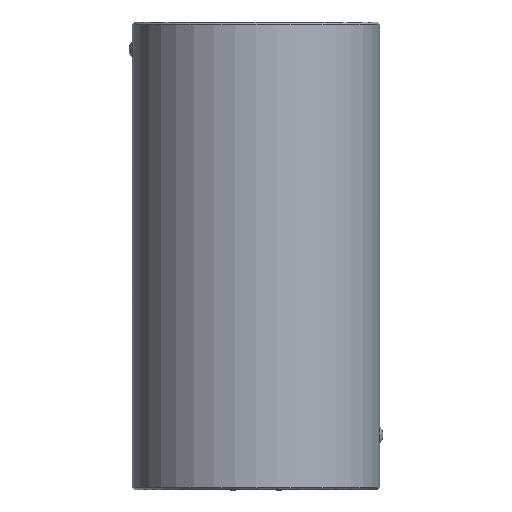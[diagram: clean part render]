
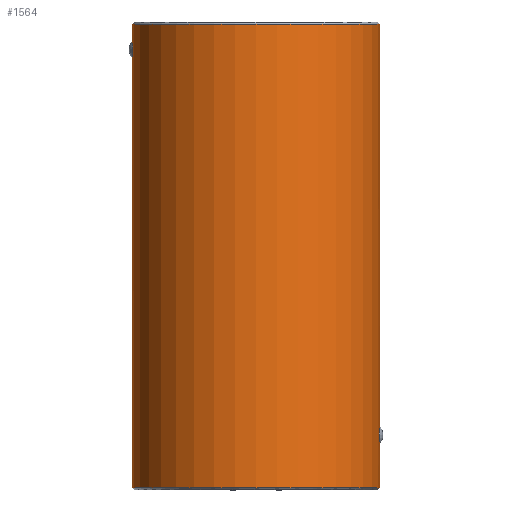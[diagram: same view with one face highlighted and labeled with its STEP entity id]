
A CAD part, front view. The second image highlights one B-rep face of the part: STEP entity #1564.
In plain terms, the highlighted cylindrical face has radius 18.5 mm (diameter 37 mm), a partial arc.
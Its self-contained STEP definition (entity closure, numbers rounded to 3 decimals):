
#1346=CARTESIAN_POINT('Vertex',(-18.5,0.,0.3)) ;
#1353=CARTESIAN_POINT('Vertex',(18.5,0.,0.3)) ;
#1356=CARTESIAN_POINT('Axis2P3D Location',(0.,0.,0.3)) ;
#1474=CARTESIAN_POINT('Axis2P3D Location',(0.,0.,70.)) ;
#1479=CARTESIAN_POINT('Line Origine',(18.5,0.,70.)) ;
#1483=CARTESIAN_POINT('Vertex',(18.5,0.,6.877)) ;
#1487=CARTESIAN_POINT('Control Point',(18.449,-1.379,8.201)) ;
#1488=CARTESIAN_POINT('Control Point',(18.449,-1.379,7.776)) ;
#1489=CARTESIAN_POINT('Control Point',(18.462,-1.201,7.352)) ;
#1490=CARTESIAN_POINT('Control Point',(18.488,-0.85,7.033)) ;
#1491=CARTESIAN_POINT('Control Point',(18.5,-0.425,6.877)) ;
#1492=CARTESIAN_POINT('Control Point',(18.5,0.,6.877)) ;
#1493=CARTESIAN_POINT('Vertex',(18.449,-1.379,8.201)) ;
#1497=CARTESIAN_POINT('Control Point',(18.5,0.,9.523)) ;
#1498=CARTESIAN_POINT('Control Point',(18.5,-0.425,9.523)) ;
#1499=CARTESIAN_POINT('Control Point',(18.488,-0.845,9.368)) ;
#1500=CARTESIAN_POINT('Control Point',(18.462,-1.201,9.052)) ;
#1501=CARTESIAN_POINT('Control Point',(18.449,-1.379,8.625)) ;
#1502=CARTESIAN_POINT('Control Point',(18.449,-1.379,8.201)) ;
#1503=CARTESIAN_POINT('Vertex',(18.5,0.,9.523)) ;
#1506=CARTESIAN_POINT('Line Origine',(18.5,0.,70.)) ;
#1510=CARTESIAN_POINT('Vertex',(18.5,0.,69.7)) ;
#1513=CARTESIAN_POINT('Axis2P3D Location',(0.,0.,69.7)) ;
#1517=CARTESIAN_POINT('Vertex',(-18.5,0.,69.7)) ;
#1520=CARTESIAN_POINT('Line Origine',(-18.5,0.,70.)) ;
#1524=CARTESIAN_POINT('Vertex',(-18.5,0.,67.223)) ;
#1528=CARTESIAN_POINT('Control Point',(-18.449,-1.379,65.899)) ;
#1529=CARTESIAN_POINT('Control Point',(-18.449,-1.379,66.324)) ;
#1530=CARTESIAN_POINT('Control Point',(-18.462,-1.201,66.748)) ;
#1531=CARTESIAN_POINT('Control Point',(-18.488,-0.85,67.067)) ;
#1532=CARTESIAN_POINT('Control Point',(-18.5,-0.425,67.223)) ;
#1533=CARTESIAN_POINT('Control Point',(-18.5,0.,67.223)) ;
#1534=CARTESIAN_POINT('Vertex',(-18.449,-1.379,65.899)) ;
#1538=CARTESIAN_POINT('Control Point',(-18.5,0.,64.577)) ;
#1539=CARTESIAN_POINT('Control Point',(-18.5,-0.425,64.577)) ;
#1540=CARTESIAN_POINT('Control Point',(-18.488,-0.845,64.732)) ;
#1541=CARTESIAN_POINT('Control Point',(-18.462,-1.201,65.048)) ;
#1542=CARTESIAN_POINT('Control Point',(-18.449,-1.379,65.475)) ;
#1543=CARTESIAN_POINT('Control Point',(-18.449,-1.379,65.899)) ;
#1544=CARTESIAN_POINT('Vertex',(-18.5,0.,64.577)) ;
#1547=CARTESIAN_POINT('Line Origine',(-18.5,0.,70.)) ;
#1357=DIRECTION('Axis2P3D Direction',(0.,-0.,1.)) ;
#1475=DIRECTION('Axis2P3D Direction',(0.,0.,-1.)) ;
#1476=DIRECTION('Axis2P3D XDirection',(1.,0.,0.)) ;
#1480=DIRECTION('Vector Direction',(0.,0.,-1.)) ;
#1507=DIRECTION('Vector Direction',(0.,0.,-1.)) ;
#1514=DIRECTION('Axis2P3D Direction',(0.,0.,-1.)) ;
#1521=DIRECTION('Vector Direction',(0.,0.,-1.)) ;
#1548=DIRECTION('Vector Direction',(0.,0.,-1.)) ;
#1358=AXIS2_PLACEMENT_3D('Circle Axis2P3D',#1356,#1357,$) ;
#1477=AXIS2_PLACEMENT_3D('Cylinder Axis2P3D',#1474,#1475,#1476) ;
#1515=AXIS2_PLACEMENT_3D('Circle Axis2P3D',#1513,#1514,$) ;
#1553=ORIENTED_EDGE('',*,*,#1485,.T.) ;
#1554=ORIENTED_EDGE('',*,*,#1495,.F.) ;
#1555=ORIENTED_EDGE('',*,*,#1505,.F.) ;
#1556=ORIENTED_EDGE('',*,*,#1512,.T.) ;
#1557=ORIENTED_EDGE('',*,*,#1519,.F.) ;
#1558=ORIENTED_EDGE('',*,*,#1526,.T.) ;
#1559=ORIENTED_EDGE('',*,*,#1536,.F.) ;
#1560=ORIENTED_EDGE('',*,*,#1546,.F.) ;
#1561=ORIENTED_EDGE('',*,*,#1551,.T.) ;
#1562=ORIENTED_EDGE('',*,*,#1360,.T.) ;
#1481=VECTOR('Line Direction',#1480,1.) ;
#1508=VECTOR('Line Direction',#1507,1.) ;
#1522=VECTOR('Line Direction',#1521,1.) ;
#1549=VECTOR('Line Direction',#1548,1.) ;
#1564=ADVANCED_FACE('730-30x70',(#1563),#1478,.T.) ;
#1486=B_SPLINE_CURVE_WITH_KNOTS('',5,(#1487,#1488,#1489,#1490,#1491,#1492),.UNSPECIFIED.,.F.,.U.,(6,6),(0.,3.013),.UNSPECIFIED.) ;
#1496=B_SPLINE_CURVE_WITH_KNOTS('',5,(#1497,#1498,#1499,#1500,#1501,#1502),.UNSPECIFIED.,.F.,.U.,(6,6),(0.,3.006),.UNSPECIFIED.) ;
#1527=B_SPLINE_CURVE_WITH_KNOTS('',5,(#1528,#1529,#1530,#1531,#1532,#1533),.UNSPECIFIED.,.F.,.U.,(6,6),(0.,3.013),.UNSPECIFIED.) ;
#1537=B_SPLINE_CURVE_WITH_KNOTS('',5,(#1538,#1539,#1540,#1541,#1542,#1543),.UNSPECIFIED.,.F.,.U.,(6,6),(0.,3.006),.UNSPECIFIED.) ;
#1359=CIRCLE('generated circle',#1358,18.5) ;
#1516=CIRCLE('generated circle',#1515,18.5) ;
#1478=CYLINDRICAL_SURFACE('generated cylinder',#1477,18.5) ;
#1360=EDGE_CURVE('',#1347,#1354,#1359,.T.) ;
#1485=EDGE_CURVE('',#1354,#1484,#1482,.F.) ;
#1495=EDGE_CURVE('',#1494,#1484,#1486,.T.) ;
#1505=EDGE_CURVE('',#1504,#1494,#1496,.T.) ;
#1512=EDGE_CURVE('',#1504,#1511,#1509,.F.) ;
#1519=EDGE_CURVE('',#1518,#1511,#1516,.F.) ;
#1526=EDGE_CURVE('',#1518,#1525,#1523,.T.) ;
#1536=EDGE_CURVE('',#1535,#1525,#1527,.T.) ;
#1546=EDGE_CURVE('',#1545,#1535,#1537,.T.) ;
#1551=EDGE_CURVE('',#1545,#1347,#1550,.T.) ;
#1552=EDGE_LOOP('',(#1553,#1554,#1555,#1556,#1557,#1558,#1559,#1560,#1561,#1562)) ;
#1563=FACE_OUTER_BOUND('',#1552,.T.) ;
#1482=LINE('Line',#1479,#1481) ;
#1509=LINE('Line',#1506,#1508) ;
#1523=LINE('Line',#1520,#1522) ;
#1550=LINE('Line',#1547,#1549) ;
#1347=VERTEX_POINT('',#1346) ;
#1354=VERTEX_POINT('',#1353) ;
#1484=VERTEX_POINT('',#1483) ;
#1494=VERTEX_POINT('',#1493) ;
#1504=VERTEX_POINT('',#1503) ;
#1511=VERTEX_POINT('',#1510) ;
#1518=VERTEX_POINT('',#1517) ;
#1525=VERTEX_POINT('',#1524) ;
#1535=VERTEX_POINT('',#1534) ;
#1545=VERTEX_POINT('',#1544) ;
